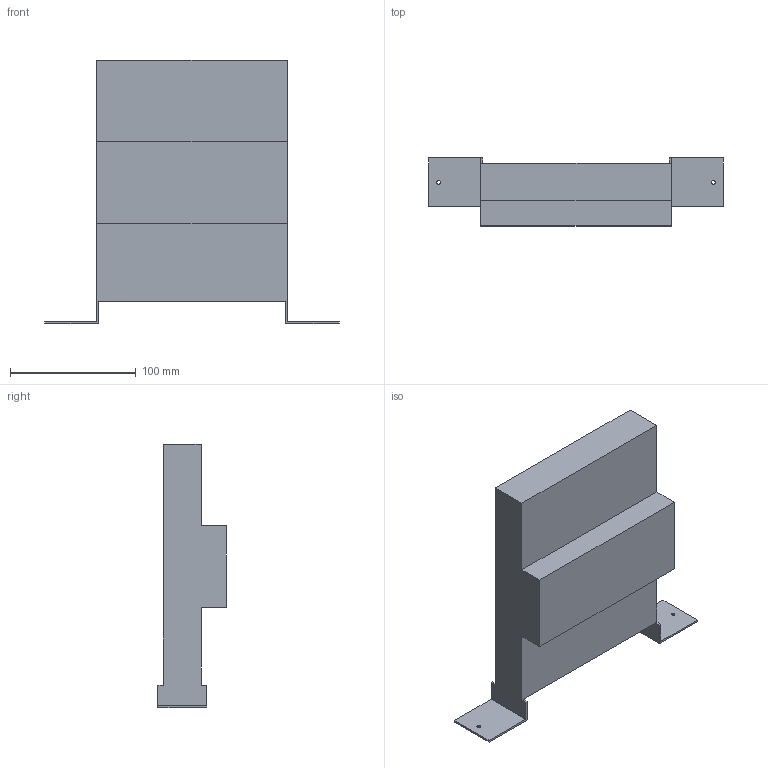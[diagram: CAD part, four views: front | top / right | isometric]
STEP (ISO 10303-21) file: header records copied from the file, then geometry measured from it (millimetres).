
FILE_DESCRIPTION (( 'STEP AP214' ), '1' );
FILE_NAME ('Sensotronic-Netzteil.STEP', '2010-10-15T09:18:06', ( 'grass' ), ( '' ), 'SwSTEP 2.0', 'SolidWorks 2010', '' );
FILE_SCHEMA (( 'AUTOMOTIVE_DESIGN' ));
Length unit declared in the file: millimetre
Products named in the file (1): Sensotronic-Netzteil
Bounding box: 235 x 54.5 x 210 mm (x, y, z)
Volume: 1080060.3 mm3; surface area: 97381 mm2
Topology: 1 solids, 1 shells, 30 faces, 80 edges, 52 vertices
Faces by surface type: plane 26, cylinder 4
Entity records: 962 total; most frequent: CARTESIAN_POINT 163, ORIENTED_EDGE 160, DIRECTION 150, EDGE_CURVE 80, LINE 72, VECTOR 72, VERTEX_POINT 52, AXIS2_PLACEMENT_3D 39
